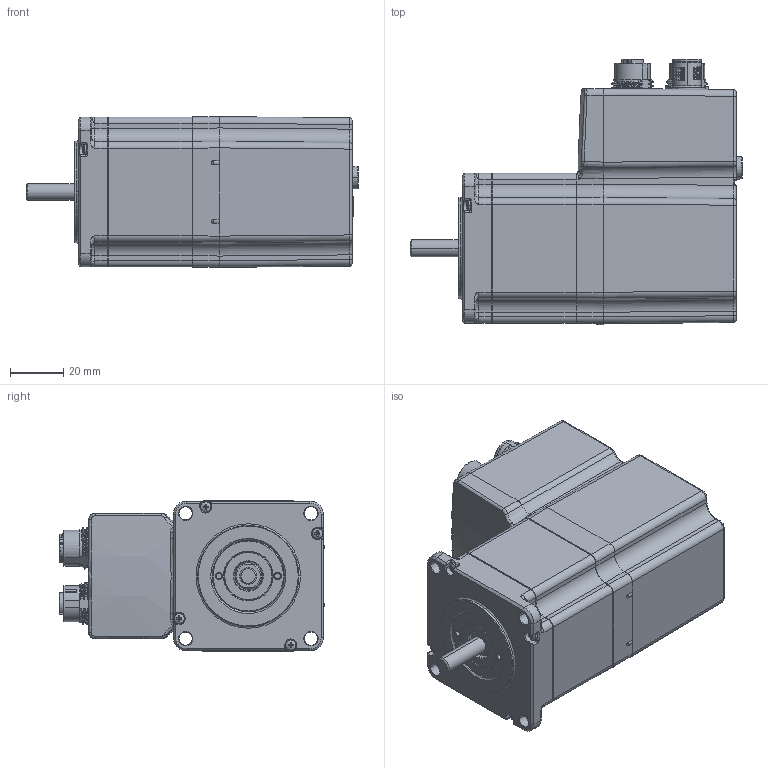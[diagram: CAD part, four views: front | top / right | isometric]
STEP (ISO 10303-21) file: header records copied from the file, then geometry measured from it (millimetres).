
FILE_DESCRIPTION((''),'2;1');
FILE_NAME('STEPPERASSY_ASM','2023-07-14T11:02:25',('VA'),(''),'CREO PARAMETRIC BY PTC INC, 2021063','CREO PARAMETRIC BY PTC INC, 2021063','');
FILE_SCHEMA(('AUTOMOTIVE_DESIGN { 1 0 10303 214 1 1 1 1 }'));
Products named in the file (8): FRONT_CAP_1; STATOR; RADIAL_CON; SHAFT_1; LOCK_NUT_1; SEALING_1; FAST_S; STEPPERASSY_ASM
Assembly tree (10 placements, depth 2):
  STEPPERASSY_ASM
    FRONT_CAP_1
    STATOR
    RADIAL_CON
    SHAFT_1
    LOCK_NUT_1
    SEALING_1
    FAST_S  x4
Bounding box: 124.9 x 99.82 x 56.67 mm (x, y, z)
Volume: 383447.8 mm3; surface area: 58724.4 mm2
Topology: 10 solids, 16 shells, 2180 faces, 5555 edges, 3470 vertices
Faces by surface type: plane 789, cylinder 609, bspline 359, cone 208, torus 181, sphere 32, extrusion 2
Entity records: 118508 total; most frequent: CARTESIAN_POINT 43591, ORIENTED_EDGE 10450, DIRECTION 9547, PRESENTATION_STYLE_ASSIGNMENT 5711, EDGE_CURVE 5227, STYLED_ITEM 4972, CURVE_STYLE 4768, AXIS2_PLACEMENT_3D 3564
